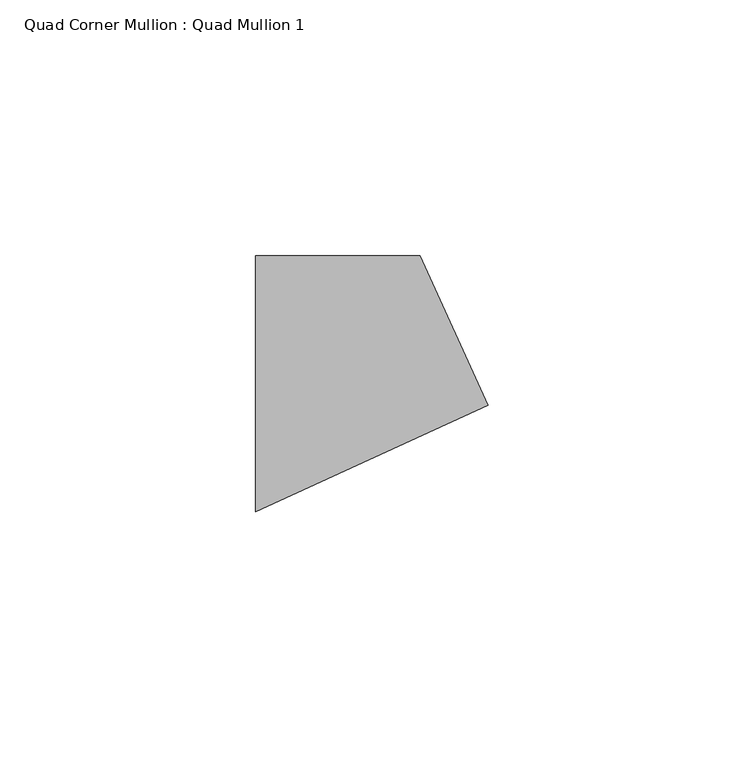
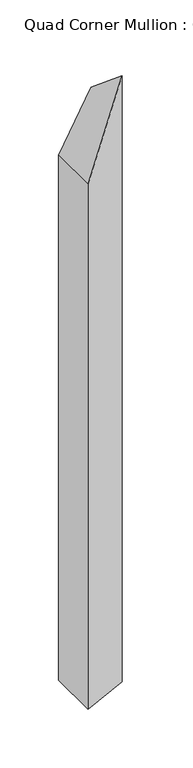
"""IFC4 building model written with IfcOpenShell, lengths in millimetres: member geometry, Quad Corner Mullion : Quad Mullion 1."""

import ifcopenshell
import ifcopenshell.guid

model = None  # the IFC model being written
_history = None  # IfcOwnerHistory: only IFC2X3 demands one
_inside = {}  # id of a spatial element -> (the spatial element, [elements in it])
_under = {}  # id of a project, library or spatial element -> (it, [spatial elements below it])
_declared = {}  # id of a project -> (the project, [libraries it declares])
_typed = {}  # id of a type object -> (the type object, [elements of that type])
_made_of = {}  # id of a material, layer set ... -> (it, [elements and type objects made of it])


def new_model(schema):
    """Start an empty IFC model of exactly this schema.

    Asked for "IFC4X3", IfcOpenShell would pick the latest addendum, in which some entities
    have other attributes; the version numbers below select the first issue.
    IFC2X3 requires an IfcOwnerHistory on every rooted entity: one is made here for all.
    """
    global model, _history
    if schema == "IFC4X3":
        model = ifcopenshell.file(schema_version=(4, 3, 0, 0))
    else:
        model = ifcopenshell.file(schema=schema)
    _inside.clear()
    _under.clear()
    _declared.clear()
    _typed.clear()
    _made_of.clear()
    _history = None
    if model.schema == "IFC2X3":
        org = make("IfcOrganization", Name="unknown")
        user = make(
            "IfcPersonAndOrganization",
            ThePerson=make("IfcPerson", FamilyName="unknown"),
            TheOrganization=org,
        )
        app = make(
            "IfcApplication",
            ApplicationDeveloper=org,
            Version="unknown",
            ApplicationFullName="unknown",
            ApplicationIdentifier="unknown",
        )
        _history = make(
            "IfcOwnerHistory",
            OwningUser=user,
            OwningApplication=app,
            ChangeAction="ADDED",
            CreationDate=0,
        )
    return model


def make(cls, **values):
    """One entity of the class cls with the attributes given. An attribute that is None is left unset."""
    return model.create_entity(
        cls, **{name: value for name, value in values.items() if value is not None}
    )


def rooted(cls, **values):
    """An entity with a GlobalId (a new one), such as an element, a storey or a relation."""
    return make(cls, GlobalId=ifcopenshell.guid.new(), OwnerHistory=_history, **values)


def si_unit(unit_type, name, prefix=None):
    """IfcSIUnit, for example si_unit("LENGTHUNIT", "METRE", prefix="MILLI")."""
    return make("IfcSIUnit", UnitType=unit_type, Prefix=prefix, Name=name)


def assignment(units):
    """IfcUnitAssignment: the units of a project."""
    return None if units is None else make("IfcUnitAssignment", Units=units)


def point(xyz):
    """IfcCartesianPoint."""
    return None if xyz is None else make("IfcCartesianPoint", Coordinates=xyz)


def direction(xyz):
    """IfcDirection."""
    return None if xyz is None else make("IfcDirection", DirectionRatios=xyz)


def frame(location, z_axis=None, x_axis=None):
    """IfcAxis2Placement3D, a coordinate frame: its origin and axes. An axis left out is left unset."""
    return make(
        "IfcAxis2Placement3D",
        Location=point(location),
        Axis=direction(z_axis),
        RefDirection=direction(x_axis),
    )


def origin():
    """The frame at (0, 0, 0) with its axes left unset."""
    return frame((0.0, 0.0, 0.0))


def place(relative_to, where):
    """IfcLocalPlacement: puts the frame where relative to a parent placement (None: the world)."""
    return make(
        "IfcLocalPlacement", PlacementRelTo=relative_to, RelativePlacement=where
    )


def context(
    kind, dimensions, precision=None, world=None, true_north=None, identifier=None
):
    """IfcGeometricRepresentationContext, for example the 3D "Model" context."""
    return make(
        "IfcGeometricRepresentationContext",
        ContextIdentifier=identifier,
        ContextType=kind,
        CoordinateSpaceDimension=dimensions,
        Precision=precision,
        WorldCoordinateSystem=world,
        TrueNorth=true_north,
    )


def project(units=None, contexts=None):
    """IfcProject with its units and contexts."""
    return rooted(
        "IfcProject",
        Name="project",
        RepresentationContexts=contexts,
        UnitsInContext=assignment(units),
    )


def spatial(cls, under=None, at=None, **own):
    """A site, building, storey or space (cls), placed at a placement, below another one or the project."""
    s = rooted(cls, ObjectPlacement=at, **own)
    if under is not None:
        _under.setdefault(under.id(), (under, []))[1].append(s)
    return s


def faces_of(points, faces, orient=None, outer=None):
    """IfcFace entities. A face is a list of loops; a loop is a list of indices into points, from 0.

    orient and outer hold one flag for each loop. By default every Orientation is true, the
    first loop of a face is its IfcFaceOuterBound and the others are IfcFaceBound.
    """
    made = []
    for i, loops in enumerate(faces):
        bounds = []
        for j, loop in enumerate(loops):
            is_outer = j == 0 if outer is None else outer[i][j]
            bounds.append(
                make(
                    "IfcFaceOuterBound" if is_outer else "IfcFaceBound",
                    Bound=make("IfcPolyLoop", Polygon=[points[k] for k in loop]),
                    Orientation=True if orient is None else orient[i][j],
                )
            )
        made.append(make("IfcFace", Bounds=bounds))
    return made


def faceted_brep(points, faces, orient=None, outer=None, voids=None):
    """IfcFacetedBrep: a solid bounded by flat faces; with voids (closed shells), ...WithVoids."""
    shared = [point(p) for p in points]
    hull = make("IfcClosedShell", CfsFaces=faces_of(shared, faces, orient, outer))
    if voids is None:
        return make("IfcFacetedBrep", Outer=hull)
    return make(
        "IfcFacetedBrepWithVoids",
        Outer=hull,
        Voids=[
            make(cls, CfsFaces=faces_of(shared, fs, o, b)) for cls, fs, o, b in voids
        ],
    )


def shape(context_of_items, identifier, shape_type, items):
    """IfcShapeRepresentation: the items that make up one representation, for example the "Body"."""
    return make(
        "IfcShapeRepresentation",
        ContextOfItems=context_of_items,
        RepresentationIdentifier=identifier,
        RepresentationType=shape_type,
        Items=items,
    )


def source(mapping_origin, context_of_items, identifier, shape_type, items):
    """IfcRepresentationMap: a shape defined once, which mapped items show again and again."""
    return make(
        "IfcRepresentationMap",
        MappingOrigin=mapping_origin,
        MappedRepresentation=shape(context_of_items, identifier, shape_type, items),
    )


def transform(
    local_origin,
    x_axis=None,
    y_axis=None,
    z_axis=None,
    scale=None,
    scale2=None,
    scale3=None,
    uniform=True,
):
    """IfcCartesianTransformationOperator3D, or its non-uniform kind. x_axis, y_axis, z_axis: its Axis1, 2, 3."""
    if uniform:
        return make(
            "IfcCartesianTransformationOperator3D",
            Axis1=direction(x_axis),
            Axis2=direction(y_axis),
            LocalOrigin=point(local_origin),
            Scale=scale,
            Axis3=direction(z_axis),
        )
    return make(
        "IfcCartesianTransformationOperator3DnonUniform",
        Axis1=direction(x_axis),
        Axis2=direction(y_axis),
        LocalOrigin=point(local_origin),
        Scale=scale,
        Axis3=direction(z_axis),
        Scale2=scale2,
        Scale3=scale3,
    )


def mapped(mapping_source, mapping_target):
    """IfcMappedItem: shows the shape of a source again, moved by a transform."""
    return make(
        "IfcMappedItem", MappingSource=mapping_source, MappingTarget=mapping_target
    )


def made_of(thing, what):
    """Note that an element or type object is made of a material, layer set ...; save() writes the relation."""
    if what is not None:
        _made_of.setdefault(what.id(), (what, []))[1].append(thing)
    return thing


def element(
    cls,
    number,
    at=None,
    inside=None,
    cuts=None,
    type_object=None,
    material=None,
    context=None,
    identifier="Body",
    shape_type=None,
    held_by="IfcProductDefinitionShape",
    body=None,
    shapes=None,
    **own,
):
    """One element of the class cls, such as IfcWall. Its Tag is "e" and its number.

    at: its placement. inside: the storey or other place that contains it. cuts: it is an
    opening in that element (IfcRelVoidsElement). A single representation is given by context,
    identifier, shape_type and body (its items); several are given by shapes. held_by: the class
    of the entity that holds the representations. save() writes the other relations.
    """
    e = rooted(cls, Tag="e%d" % number, ObjectPlacement=at, **own)
    if body is not None:
        shapes = [shape(context, identifier, shape_type, body)]
    if shapes is not None:
        e.Representation = make(held_by, Representations=shapes)
    if inside is not None:
        _inside.setdefault(inside.id(), (inside, []))[1].append(e)
    if cuts is not None:
        rooted(
            "IfcRelVoidsElement", RelatingBuildingElement=cuts, RelatedOpeningElement=e
        )
    if type_object is not None:
        _typed.setdefault(type_object.id(), (type_object, []))[1].append(e)
    return made_of(e, material)


def aggregate(whole, parts):
    """IfcRelAggregates: a whole, such as a stair, and the parts it consists of."""
    return rooted("IfcRelAggregates", RelatingObject=whole, RelatedObjects=parts)


def save(model, path):
    """Write the relations noted so far, then the file.

    IfcRelAggregates (storeys below a building ...), IfcRelContainedInSpatialStructure (elements
    in a storey), IfcRelDefinesByType, IfcRelAssociatesMaterial and IfcRelDeclares: one each for
    every whole, place, type object, material and project.
    """
    for whole, parts in _under.values():
        aggregate(whole, parts)
    for where, things in _inside.values():
        rooted(
            "IfcRelContainedInSpatialStructure",
            RelatedElements=things,
            RelatingStructure=where,
        )
    for kind, things in _typed.values():
        rooted("IfcRelDefinesByType", RelatedObjects=things, RelatingType=kind)
    for what, things in _made_of.values():
        rooted("IfcRelAssociatesMaterial", RelatedObjects=things, RelatingMaterial=what)
    for by, libraries in _declared.values():
        rooted("IfcRelDeclares", RelatingContext=by, RelatedDefinitions=libraries)
    model.write(path)


def quad_corner_mullion_quad_mullion_1_f23d6550(model_context):
    return source(origin(), model_context, "Body", "Brep", [
        faceted_brep([(29.4125559, -4.1926582, -575.0), (-16.0523154, -25.0, -575.0), (-16.0523154, 25.0, -575.0), (16.0523154, 25.0, -575.0), (16.0523154, 25.0, 29.7712237), (29.4125559, -4.1926582, 54.5496248), (-16.0523154, 25.0, -29.7712237), (-16.0523154, -25.0, -29.7712237)], [[[0, 1, 2, 3]], [[4, 5, 0, 3]], [[6, 4, 3, 2]], [[7, 6, 2, 1]], [[5, 7, 1, 0]], [[5, 4, 6, 7]]]),
    ])


if __name__ == "__main__":
    model = new_model("IFC4")
    model_context = context("Model", 3, world=origin())
    ifc_project = project(units=[si_unit("LENGTHUNIT", "METRE", prefix="MILLI")], contexts=[model_context])
    site = spatial("IfcSite", under=ifc_project)
    building = spatial("IfcBuilding", under=site)
    placement = place(None, origin())
    quad_corner_mullion_quad_mullion_1_shape = quad_corner_mullion_quad_mullion_1_f23d6550(model_context)
    element("IfcMember", 1, ObjectType="Quad Corner Mullion : Quad Mullion 1", at=placement, inside=building, context=model_context, shape_type="MappedRepresentation", body=[
        mapped(quad_corner_mullion_quad_mullion_1_shape, transform((0.0, 0.0, 0.0), x_axis=(1.0, 0.0, 0.0), y_axis=(0.0, 1.0, 0.0), z_axis=(0.0, 0.0, 1.0))),
    ])
    save(model, "model.ifc")
